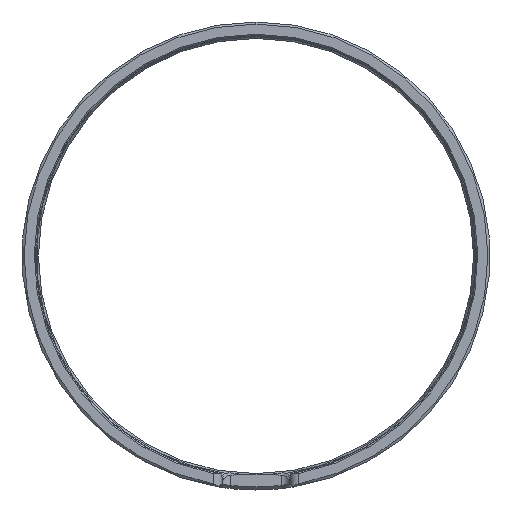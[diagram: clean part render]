
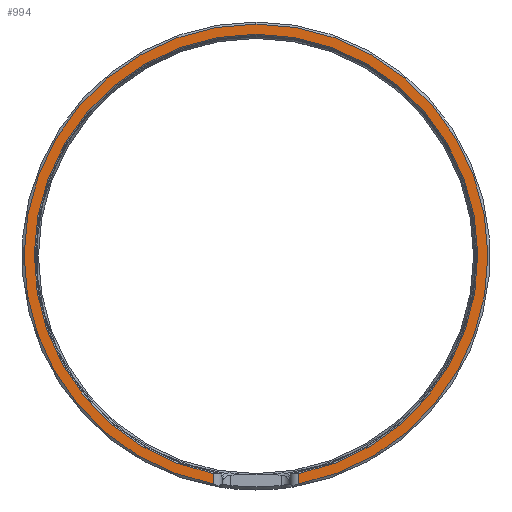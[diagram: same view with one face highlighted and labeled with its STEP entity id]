
A CAD part, left-side view. The second image highlights one B-rep face of the part: STEP entity #994.
In plain terms, the highlighted planar face has unit normal (-1, 0, 0).
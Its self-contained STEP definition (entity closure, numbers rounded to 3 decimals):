
#45 = VECTOR ( 'NONE', #1393, 1000. ) ;
#78 = VERTEX_POINT ( 'NONE', #3896 ) ;
#100 = EDGE_CURVE ( 'NONE', #78, #1180, #3131, .T. ) ;
#130 = CIRCLE ( 'NONE', #3894, 53.075 ) ;
#185 = CARTESIAN_POINT ( 'NONE',  ( -200., 0., 0. ) ) ;
#217 = AXIS2_PLACEMENT_3D ( 'NONE', #2092, #3224, #1362 ) ;
#265 = CARTESIAN_POINT ( 'NONE',  ( -200., -10.2, -56. ) ) ;
#307 = CARTESIAN_POINT ( 'NONE',  ( -200., -10.2, -54.555 ) ) ;
#462 = DIRECTION ( 'NONE',  ( 0., 0., 1. ) ) ;
#601 = CARTESIAN_POINT ( 'NONE',  ( -200., 0., 55.5 ) ) ;
#921 = DIRECTION ( 'NONE',  ( 0., 0., 1. ) ) ;
#994 = ADVANCED_FACE ( 'NONE', ( #1890 ), #1742, .T. ) ;
#999 = CARTESIAN_POINT ( 'NONE',  ( -200., 10.2, -56. ) ) ;
#1180 = VERTEX_POINT ( 'NONE', #1528 ) ;
#1284 = DIRECTION ( 'NONE',  ( 0., 0., -1. ) ) ;
#1299 = CIRCLE ( 'NONE', #3329, 55.5 ) ;
#1362 = DIRECTION ( 'NONE',  ( 0., 0., 1. ) ) ;
#1393 = DIRECTION ( 'NONE',  ( 0., 0., 1. ) ) ;
#1528 = CARTESIAN_POINT ( 'NONE',  ( -200., 10.2, -52.086 ) ) ;
#1629 = DIRECTION ( 'NONE',  ( -1., 0., 0. ) ) ;
#1722 = DIRECTION ( 'NONE',  ( 0., 0., 1. ) ) ;
#1742 = PLANE ( 'NONE',  #3173 ) ;
#1815 = ORIENTED_EDGE ( 'NONE', *, *, #1817, .T. ) ;
#1817 = EDGE_CURVE ( 'NONE', #2164, #3067, #1299, .T. ) ;
#1883 = VECTOR ( 'NONE', #1722, 1000. ) ;
#1890 = FACE_OUTER_BOUND ( 'NONE', #2582, .T. ) ;
#1917 = EDGE_CURVE ( 'NONE', #2359, #1180, #130, .T. ) ;
#2092 = CARTESIAN_POINT ( 'NONE',  ( -200., 0., 0. ) ) ;
#2164 = VERTEX_POINT ( 'NONE', #307 ) ;
#2330 = CIRCLE ( 'NONE', #217, 55.5 ) ;
#2359 = VERTEX_POINT ( 'NONE', #3418 ) ;
#2582 = EDGE_LOOP ( 'NONE', ( #3012, #1815, #3390, #4446, #4594 ) ) ;
#2715 = DIRECTION ( 'NONE',  ( -1., 0., 0. ) ) ;
#3012 = ORIENTED_EDGE ( 'NONE', *, *, #3701, .F. ) ;
#3067 = VERTEX_POINT ( 'NONE', #601 ) ;
#3131 = LINE ( 'NONE', #999, #1883 ) ;
#3173 = AXIS2_PLACEMENT_3D ( 'NONE', #3812, #4519, #1284 ) ;
#3224 = DIRECTION ( 'NONE',  ( -1., 0., 0. ) ) ;
#3257 = EDGE_CURVE ( 'NONE', #3067, #78, #2330, .T. ) ;
#3315 = CARTESIAN_POINT ( 'NONE',  ( -200., 0., 0. ) ) ;
#3329 = AXIS2_PLACEMENT_3D ( 'NONE', #3315, #2715, #921 ) ;
#3390 = ORIENTED_EDGE ( 'NONE', *, *, #3257, .T. ) ;
#3418 = CARTESIAN_POINT ( 'NONE',  ( -200., -10.2, -52.086 ) ) ;
#3701 = EDGE_CURVE ( 'NONE', #2164, #2359, #4629, .T. ) ;
#3812 = CARTESIAN_POINT ( 'NONE',  ( -200., 0., 0. ) ) ;
#3894 = AXIS2_PLACEMENT_3D ( 'NONE', #185, #1629, #462 ) ;
#3896 = CARTESIAN_POINT ( 'NONE',  ( -200., 10.2, -54.555 ) ) ;
#4446 = ORIENTED_EDGE ( 'NONE', *, *, #100, .T. ) ;
#4519 = DIRECTION ( 'NONE',  ( -1., 0., 0. ) ) ;
#4594 = ORIENTED_EDGE ( 'NONE', *, *, #1917, .F. ) ;
#4629 = LINE ( 'NONE', #265, #45 ) ;
